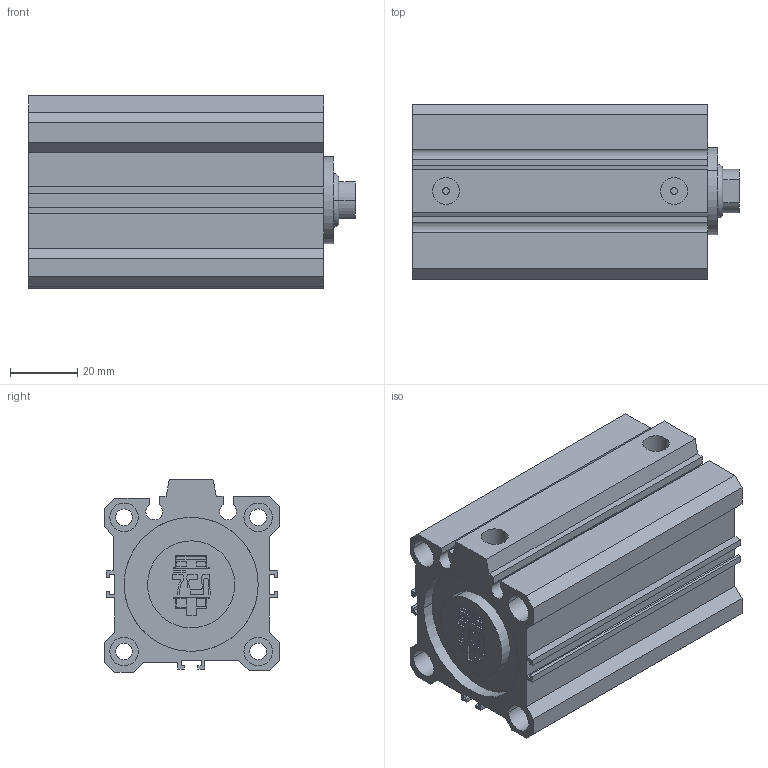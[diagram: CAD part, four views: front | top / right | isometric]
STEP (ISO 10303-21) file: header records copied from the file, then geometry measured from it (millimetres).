
FILE_DESCRIPTION(('CATIA V5 STEP Exchange'),'2;1');
FILE_NAME('D:\PDA\PDA-STP\PDA 40-16\PDA 40-16-50.stp','2016-02-02T10:45:44+00:00',('none'),('none'),'Version 5-6 Release 2012','CATIA V5 STEP AP203','none');
FILE_SCHEMA(('CONFIG_CONTROL_DESIGN'));
Length unit declared in the file: millimetre
Products named in the file (1): PDA 40-16-50-00
Assembly tree (2 placements, depth 2):
  PDA 40-16-50-00
    #58
    #6821
Bounding box: 97.5 x 52 x 57.5 mm (x, y, z)
Volume: 147312.9 mm3; surface area: 58089.1 mm2
Topology: 2 solids, 2 shells, 257 faces, 660 edges, 440 vertices
Faces by surface type: plane 181, cylinder 74, torus 2
Entity records: 7290 total; most frequent: ORIENTED_EDGE 1320, CARTESIAN_POINT 1272, DIRECTION 1004, EDGE_CURVE 660, VECTOR 500, LINE 500, VERTEX_POINT 440, AXIS2_PLACEMENT_3D 332
